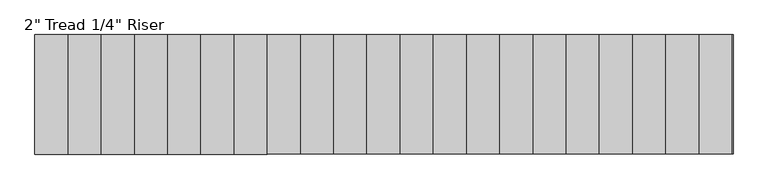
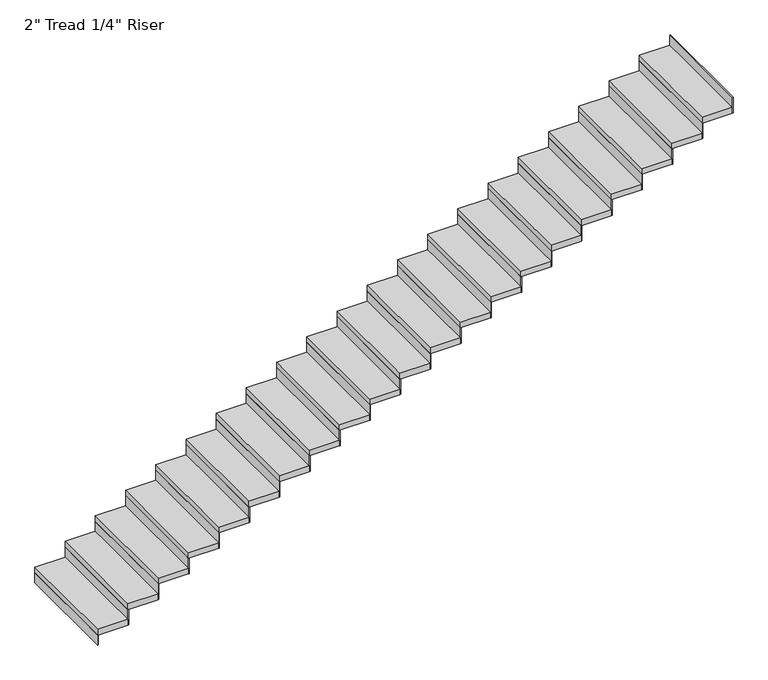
"""IFC4 building model written with IfcOpenShell, lengths in millimetres: stair flight geometry."""

from ifc_helpers import new_model, si_unit, frame, origin, origin_with_axes, place, context, project, spatial, polyline, outline, extrude, source, transform, mapped, element, save


def stair_flight_21dbc130(model_context):
    return source(origin(), model_context, "Body", "SweptSolid", [
        extrude(outline(polyline([(-14491.7664794, -68793.8034511), (-14498.1164794, -68793.8034511), (-14498.1164794, -67879.4034511), (-14491.7664794, -67879.4034511), (-14491.7664794, -68793.8034511)])), origin_with_axes(), (0.0, 0.0, 1.0), 87.7454545),
        extrude(outline(polyline([(-14244.1164794, -67879.4034511), (-14244.1164794, -68793.8034511), (-14498.1164794, -68793.8034511), (-14498.1164794, -67879.4034511), (-14244.1164794, -67879.4034511)])), frame((0.0, 0.0, 87.7454545), z_axis=(0.0, 0.0, 1.0), x_axis=(1.0, 0.0, 0.0)), (0.0, 0.0, 1.0), 50.8),
        extrude(outline(polyline([(-14237.7664794, -68793.8034511), (-14244.1164794, -68793.8034511), (-14244.1164794, -67879.4034511), (-14237.7664794, -67879.4034511), (-14237.7664794, -68793.8034511)])), frame((0.0, 0.0, 87.7454545), z_axis=(0.0, 0.0, 1.0), x_axis=(1.0, 0.0, 0.0)), (0.0, 0.0, 1.0), 138.5454545),
        extrude(outline(polyline([(-13990.1164794, -67879.4034511), (-13990.1164794, -68793.8034511), (-14244.1164794, -68793.8034511), (-14244.1164794, -67879.4034511), (-13990.1164794, -67879.4034511)])), frame((0.0, 0.0, 226.2909091), z_axis=(0.0, 0.0, 1.0), x_axis=(1.0, 0.0, 0.0)), (0.0, 0.0, 1.0), 50.8),
        extrude(outline(polyline([(-13983.7664794, -68793.8034511), (-13990.1164794, -68793.8034511), (-13990.1164794, -67879.4034511), (-13983.7664794, -67879.4034511), (-13983.7664794, -68793.8034511)])), frame((0.0, 0.0, 226.2909091), z_axis=(0.0, 0.0, 1.0), x_axis=(1.0, 0.0, 0.0)), (0.0, 0.0, 1.0), 138.5454545),
        extrude(outline(polyline([(-13736.1164794, -67879.4034511), (-13736.1164794, -68793.8034511), (-13990.1164794, -68793.8034511), (-13990.1164794, -67879.4034511), (-13736.1164794, -67879.4034511)])), frame((0.0, 0.0, 364.8363636), z_axis=(0.0, 0.0, 1.0), x_axis=(1.0, 0.0, 0.0)), (0.0, 0.0, 1.0), 50.8),
        extrude(outline(polyline([(-13729.7664794, -68793.8034511), (-13736.1164794, -68793.8034511), (-13736.1164794, -67879.4034511), (-13729.7664794, -67879.4034511), (-13729.7664794, -68793.8034511)])), frame((0.0, 0.0, 364.8363636), z_axis=(0.0, 0.0, 1.0), x_axis=(1.0, 0.0, 0.0)), (0.0, 0.0, 1.0), 138.5454545),
        extrude(outline(polyline([(-13482.1164794, -67879.4034511), (-13482.1164794, -68793.8034511), (-13736.1164794, -68793.8034511), (-13736.1164794, -67879.4034511), (-13482.1164794, -67879.4034511)])), frame((0.0, 0.0, 503.3818182), z_axis=(0.0, 0.0, 1.0), x_axis=(1.0, 0.0, 0.0)), (0.0, 0.0, 1.0), 50.8),
        extrude(outline(polyline([(-13475.7664794, -68793.8034511), (-13482.1164794, -68793.8034511), (-13482.1164794, -67879.4034511), (-13475.7664794, -67879.4034511), (-13475.7664794, -68793.8034511)])), frame((0.0, 0.0, 503.3818182), z_axis=(0.0, 0.0, 1.0), x_axis=(1.0, 0.0, 0.0)), (0.0, 0.0, 1.0), 138.5454545),
        extrude(outline(polyline([(-13228.1164794, -67879.4034511), (-13228.1164794, -68793.8034511), (-13482.1164794, -68793.8034511), (-13482.1164794, -67879.4034511), (-13228.1164794, -67879.4034511)])), frame((0.0, 0.0, 641.9272727), z_axis=(0.0, 0.0, 1.0), x_axis=(1.0, 0.0, 0.0)), (0.0, 0.0, 1.0), 50.8),
        extrude(outline(polyline([(-13221.7664794, -68793.8034511), (-13228.1164794, -68793.8034511), (-13228.1164794, -67879.4034511), (-13221.7664794, -67879.4034511), (-13221.7664794, -68793.8034511)])), frame((0.0, 0.0, 641.9272727), z_axis=(0.0, 0.0, 1.0), x_axis=(1.0, 0.0, 0.0)), (0.0, 0.0, 1.0), 138.5454545),
        extrude(outline(polyline([(-12974.1164794, -67879.4034511), (-12974.1164794, -68793.8034511), (-13228.1164794, -68793.8034511), (-13228.1164794, -67879.4034511), (-12974.1164794, -67879.4034511)])), frame((0.0, 0.0, 780.4727273), z_axis=(0.0, 0.0, 1.0), x_axis=(1.0, 0.0, 0.0)), (0.0, 0.0, 1.0), 50.8),
        extrude(outline(polyline([(-12967.7664794, -68793.8034511), (-12974.1164794, -68793.8034511), (-12974.1164794, -67879.4034511), (-12967.7664794, -67879.4034511), (-12967.7664794, -68793.8034511)])), frame((0.0, 0.0, 780.4727273), z_axis=(0.0, 0.0, 1.0), x_axis=(1.0, 0.0, 0.0)), (0.0, 0.0, 1.0), 138.5454545),
        extrude(outline(polyline([(-12720.1164794, -67879.4034511), (-12720.1164794, -68793.8034511), (-12974.1164794, -68793.8034511), (-12974.1164794, -67879.4034511), (-12720.1164794, -67879.4034511)])), frame((0.0, 0.0, 919.0181818), z_axis=(0.0, 0.0, 1.0), x_axis=(1.0, 0.0, 0.0)), (0.0, 0.0, 1.0), 50.8),
        extrude(outline(polyline([(-12713.7664794, -68793.8034511), (-12720.1164794, -68793.8034511), (-12720.1164794, -67879.4034511), (-12713.7664794, -67879.4034511), (-12713.7664794, -68793.8034511)])), frame((0.0, 0.0, 919.0181818), z_axis=(0.0, 0.0, 1.0), x_axis=(1.0, 0.0, 0.0)), (0.0, 0.0, 1.0), 138.5454545),
        extrude(outline(polyline([(-12466.1164794, -67879.4034511), (-12466.1164794, -68793.8034511), (-12720.1164794, -68793.8034511), (-12720.1164794, -67879.4034511), (-12466.1164794, -67879.4034511)])), frame((0.0, 0.0, 1057.5636364), z_axis=(0.0, 0.0, 1.0), x_axis=(1.0, 0.0, 0.0)), (0.0, 0.0, 1.0), 50.8),
        extrude(outline(polyline([(-12459.7664794, -68793.8034511), (-12466.1164794, -68793.8034511), (-12466.1164794, -67879.4034511), (-12459.7664794, -67879.4034511), (-12459.7664794, -68793.8034511)])), frame((0.0, 0.0, 1057.5636364), z_axis=(0.0, 0.0, 1.0), x_axis=(1.0, 0.0, 0.0)), (0.0, 0.0, 1.0), 138.5454545),
        extrude(outline(polyline([(-12212.1164794, -67879.4034511), (-12212.1164794, -68793.8034511), (-12466.1164794, -68793.8034511), (-12466.1164794, -67879.4034511), (-12212.1164794, -67879.4034511)])), frame((0.0, 0.0, 1196.1090909), z_axis=(0.0, 0.0, 1.0), x_axis=(1.0, 0.0, 0.0)), (0.0, 0.0, 1.0), 50.8),
        extrude(outline(polyline([(-12205.7664794, -68793.8034511), (-12212.1164794, -68793.8034511), (-12212.1164794, -67879.4034511), (-12205.7664794, -67879.4034511), (-12205.7664794, -68793.8034511)])), frame((0.0, 0.0, 1196.1090909), z_axis=(0.0, 0.0, 1.0), x_axis=(1.0, 0.0, 0.0)), (0.0, 0.0, 1.0), 138.5454545),
        extrude(outline(polyline([(-11958.1164794, -67879.4034511), (-11958.1164794, -68793.8034511), (-12212.1164794, -68793.8034511), (-12212.1164794, -67879.4034511), (-11958.1164794, -67879.4034511)])), frame((0.0, 0.0, 1334.6545455), z_axis=(0.0, 0.0, 1.0), x_axis=(1.0, 0.0, 0.0)), (0.0, 0.0, 1.0), 50.8),
        extrude(outline(polyline([(-11951.7664794, -68793.8034511), (-11958.1164794, -68793.8034511), (-11958.1164794, -67879.4034511), (-11951.7664794, -67879.4034511), (-11951.7664794, -68793.8034511)])), frame((0.0, 0.0, 1334.6545455), z_axis=(0.0, 0.0, 1.0), x_axis=(1.0, 0.0, 0.0)), (0.0, 0.0, 1.0), 138.5454545),
        extrude(outline(polyline([(-11704.1164794, -67879.4034511), (-11704.1164794, -68793.8034511), (-11958.1164794, -68793.8034511), (-11958.1164794, -67879.4034511), (-11704.1164794, -67879.4034511)])), frame((0.0, 0.0, 1473.2), z_axis=(0.0, 0.0, 1.0), x_axis=(1.0, 0.0, 0.0)), (0.0, 0.0, 1.0), 50.8),
        extrude(outline(polyline([(-11697.7664794, -68793.8034511), (-11704.1164794, -68793.8034511), (-11704.1164794, -67879.4034511), (-11697.7664794, -67879.4034511), (-11697.7664794, -68793.8034511)])), frame((0.0, 0.0, 1473.2), z_axis=(0.0, 0.0, 1.0), x_axis=(1.0, 0.0, 0.0)), (0.0, 0.0, 1.0), 138.5454545),
        extrude(outline(polyline([(-11450.1164794, -67879.4034511), (-11450.1164794, -68793.8034511), (-11704.1164794, -68793.8034511), (-11704.1164794, -67879.4034511), (-11450.1164794, -67879.4034511)])), frame((0.0, 0.0, 1611.7454545), z_axis=(0.0, 0.0, 1.0), x_axis=(1.0, 0.0, 0.0)), (0.0, 0.0, 1.0), 50.8),
        extrude(outline(polyline([(-11443.7664794, -68793.8034511), (-11450.1164794, -68793.8034511), (-11450.1164794, -67879.4034511), (-11443.7664794, -67879.4034511), (-11443.7664794, -68793.8034511)])), frame((0.0, 0.0, 1611.7454545), z_axis=(0.0, 0.0, 1.0), x_axis=(1.0, 0.0, 0.0)), (0.0, 0.0, 1.0), 138.5454545),
        extrude(outline(polyline([(-11196.1164794, -67879.4034511), (-11196.1164794, -68793.8034511), (-11450.1164794, -68793.8034511), (-11450.1164794, -67879.4034511), (-11196.1164794, -67879.4034511)])), frame((0.0, 0.0, 1750.2909091), z_axis=(0.0, 0.0, 1.0), x_axis=(1.0, 0.0, 0.0)), (0.0, 0.0, 1.0), 50.8),
        extrude(outline(polyline([(-11189.7664794, -68793.8034511), (-11196.1164794, -68793.8034511), (-11196.1164794, -67879.4034511), (-11189.7664794, -67879.4034511), (-11189.7664794, -68793.8034511)])), frame((0.0, 0.0, 1750.2909091), z_axis=(0.0, 0.0, 1.0), x_axis=(1.0, 0.0, 0.0)), (0.0, 0.0, 1.0), 138.5454545),
        extrude(outline(polyline([(-10942.1164794, -67879.4034511), (-10942.1164794, -68793.8034511), (-11196.1164794, -68793.8034511), (-11196.1164794, -67879.4034511), (-10942.1164794, -67879.4034511)])), frame((0.0, 0.0, 1888.8363636), z_axis=(0.0, 0.0, 1.0), x_axis=(1.0, 0.0, 0.0)), (0.0, 0.0, 1.0), 50.8),
        extrude(outline(polyline([(-10935.7664794, -68793.8034511), (-10942.1164794, -68793.8034511), (-10942.1164794, -67879.4034511), (-10935.7664794, -67879.4034511), (-10935.7664794, -68793.8034511)])), frame((0.0, 0.0, 1888.8363636), z_axis=(0.0, 0.0, 1.0), x_axis=(1.0, 0.0, 0.0)), (0.0, 0.0, 1.0), 138.5454545),
        extrude(outline(polyline([(-10688.1164794, -67879.4034511), (-10688.1164794, -68793.8034511), (-10942.1164794, -68793.8034511), (-10942.1164794, -67879.4034511), (-10688.1164794, -67879.4034511)])), frame((0.0, 0.0, 2027.3818182), z_axis=(0.0, 0.0, 1.0), x_axis=(1.0, 0.0, 0.0)), (0.0, 0.0, 1.0), 50.8),
        extrude(outline(polyline([(-10681.7664794, -68793.8034511), (-10688.1164794, -68793.8034511), (-10688.1164794, -67879.4034511), (-10681.7664794, -67879.4034511), (-10681.7664794, -68793.8034511)])), frame((0.0, 0.0, 2027.3818182), z_axis=(0.0, 0.0, 1.0), x_axis=(1.0, 0.0, 0.0)), (0.0, 0.0, 1.0), 138.5454545),
        extrude(outline(polyline([(-10434.1164794, -67879.4034511), (-10434.1164794, -68793.8034511), (-10688.1164794, -68793.8034511), (-10688.1164794, -67879.4034511), (-10434.1164794, -67879.4034511)])), frame((0.0, 0.0, 2165.9272727), z_axis=(0.0, 0.0, 1.0), x_axis=(1.0, 0.0, 0.0)), (0.0, 0.0, 1.0), 50.8),
        extrude(outline(polyline([(-10427.7664794, -68793.8034511), (-10434.1164794, -68793.8034511), (-10434.1164794, -67879.4034511), (-10427.7664794, -67879.4034511), (-10427.7664794, -68793.8034511)])), frame((0.0, 0.0, 2165.9272727), z_axis=(0.0, 0.0, 1.0), x_axis=(1.0, 0.0, 0.0)), (0.0, 0.0, 1.0), 138.5454545),
        extrude(outline(polyline([(-10180.1164794, -67879.4034511), (-10180.1164794, -68793.8034511), (-10434.1164794, -68793.8034511), (-10434.1164794, -67879.4034511), (-10180.1164794, -67879.4034511)])), frame((0.0, 0.0, 2304.4727273), z_axis=(0.0, 0.0, 1.0), x_axis=(1.0, 0.0, 0.0)), (0.0, 0.0, 1.0), 50.8),
        extrude(outline(polyline([(-10173.7664794, -68793.8034511), (-10180.1164794, -68793.8034511), (-10180.1164794, -67879.4034511), (-10173.7664794, -67879.4034511), (-10173.7664794, -68793.8034511)])), frame((0.0, 0.0, 2304.4727273), z_axis=(0.0, 0.0, 1.0), x_axis=(1.0, 0.0, 0.0)), (0.0, 0.0, 1.0), 138.5454545),
        extrude(outline(polyline([(-9926.1164794, -67879.4034511), (-9926.1164794, -68793.8034511), (-10180.1164794, -68793.8034511), (-10180.1164794, -67879.4034511), (-9926.1164794, -67879.4034511)])), frame((0.0, 0.0, 2443.0181818), z_axis=(0.0, 0.0, 1.0), x_axis=(1.0, 0.0, 0.0)), (0.0, 0.0, 1.0), 50.8),
        extrude(outline(polyline([(-9919.7664794, -68793.8034511), (-9926.1164794, -68793.8034511), (-9926.1164794, -67879.4034511), (-9919.7664794, -67879.4034511), (-9919.7664794, -68793.8034511)])), frame((0.0, 0.0, 2443.0181818), z_axis=(0.0, 0.0, 1.0), x_axis=(1.0, 0.0, 0.0)), (0.0, 0.0, 1.0), 138.5454545),
        extrude(outline(polyline([(-9672.1164794, -67879.4034511), (-9672.1164794, -68793.8034511), (-9926.1164794, -68793.8034511), (-9926.1164794, -67879.4034511), (-9672.1164794, -67879.4034511)])), frame((0.0, 0.0, 2581.5636364), z_axis=(0.0, 0.0, 1.0), x_axis=(1.0, 0.0, 0.0)), (0.0, 0.0, 1.0), 50.8),
        extrude(outline(polyline([(-9665.7664794, -68793.8034511), (-9672.1164794, -68793.8034511), (-9672.1164794, -67879.4034511), (-9665.7664794, -67879.4034511), (-9665.7664794, -68793.8034511)])), frame((0.0, 0.0, 2581.5636364), z_axis=(0.0, 0.0, 1.0), x_axis=(1.0, 0.0, 0.0)), (0.0, 0.0, 1.0), 138.5454545),
        extrude(outline(polyline([(-9418.1164794, -67879.4034511), (-9418.1164794, -68793.8034511), (-9672.1164794, -68793.8034511), (-9672.1164794, -67879.4034511), (-9418.1164794, -67879.4034511)])), frame((0.0, 0.0, 2720.1090909), z_axis=(0.0, 0.0, 1.0), x_axis=(1.0, 0.0, 0.0)), (0.0, 0.0, 1.0), 50.8),
        extrude(outline(polyline([(-9411.7664794, -68793.8034511), (-9418.1164794, -68793.8034511), (-9418.1164794, -67879.4034511), (-9411.7664794, -67879.4034511), (-9411.7664794, -68793.8034511)])), frame((0.0, 0.0, 2720.1090909), z_axis=(0.0, 0.0, 1.0), x_axis=(1.0, 0.0, 0.0)), (0.0, 0.0, 1.0), 138.5454545),
        extrude(outline(polyline([(-9157.7664794, -68793.8034511), (-9164.1164794, -68793.8034511), (-9164.1164794, -67879.4034511), (-9157.7664794, -67879.4034511), (-9157.7664794, -68793.8034511)])), frame((0.0, 0.0, 2858.6545455), z_axis=(0.0, 0.0, 1.0), x_axis=(1.0, 0.0, 0.0)), (0.0, 0.0, 1.0), 138.5454545),
        extrude(outline(polyline([(-9164.1164794, -67879.4034511), (-9164.1164794, -68793.8034511), (-9418.1164794, -68793.8034511), (-9418.1164794, -67879.4034511), (-9164.1164794, -67879.4034511)])), frame((0.0, 0.0, 2858.6545455), z_axis=(0.0, 0.0, 1.0), x_axis=(1.0, 0.0, 0.0)), (0.0, 0.0, 1.0), 50.8),
    ])


if __name__ == "__main__":
    model = new_model("IFC4")
    model_context = context("Model", 3, world=origin())
    ifc_project = project(units=[si_unit("LENGTHUNIT", "METRE", prefix="MILLI")], contexts=[model_context])
    site = spatial("IfcSite", under=ifc_project)
    building = spatial("IfcBuilding", under=site)
    placement = place(None, origin())
    stair_flight_shape = stair_flight_21dbc130(model_context)
    element("IfcStairFlight", 1, ObjectType="2\" Tread 1/4\" Riser", at=placement, inside=building, context=model_context, shape_type="MappedRepresentation", body=[
        mapped(stair_flight_shape, transform((0.0, 0.0, 0.0), x_axis=(1.0, 0.0, 0.0), y_axis=(0.0, 1.0, 0.0), z_axis=(0.0, 0.0, 1.0))),
    ])
    save(model, "model.ifc")
